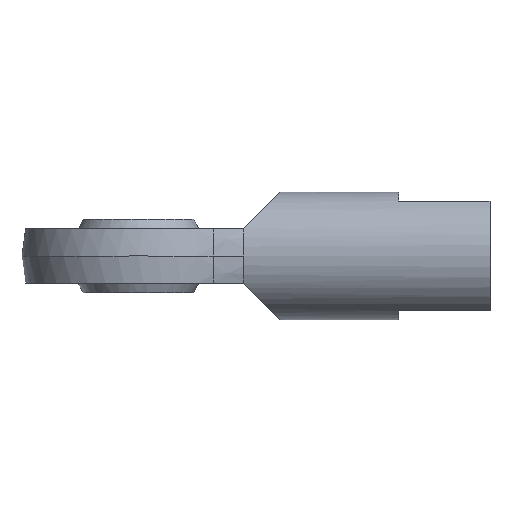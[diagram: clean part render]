
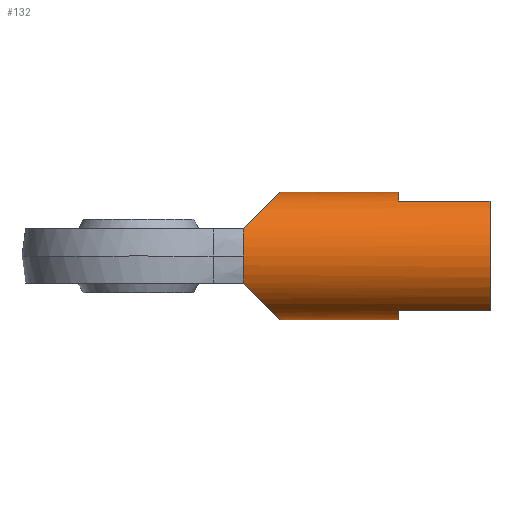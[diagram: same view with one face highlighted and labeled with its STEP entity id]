
A CAD part, front view. The second image highlights one B-rep face of the part: STEP entity #132.
In plain terms, the highlighted cylindrical face has radius 14 mm (diameter 28 mm), a partial arc.
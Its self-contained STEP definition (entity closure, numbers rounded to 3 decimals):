
#35 = ORIENTED_EDGE ( 'NONE', *, *, #36, .F. ) ;
#36 = EDGE_CURVE ( 'NONE', #42, #38, #335, .T. ) ;
#38 = VERTEX_POINT ( 'NONE', #377 ) ;
#42 = VERTEX_POINT ( 'NONE', #375 ) ;
#44 = ORIENTED_EDGE ( 'NONE', *, *, #46, .F. ) ;
#45 = VERTEX_POINT ( 'NONE', #373 ) ;
#46 = EDGE_CURVE ( 'NONE', #38, #45, #372, .T. ) ;
#47 = EDGE_CURVE ( 'NONE', #45, #323, #368, .T. ) ;
#48 = ORIENTED_EDGE ( 'NONE', *, *, #47, .F. ) ;
#49 = ORIENTED_EDGE ( 'NONE', *, *, #296, .T. ) ;
#50 = ORIENTED_EDGE ( 'NONE', *, *, #83, .T. ) ;
#51 = EDGE_CURVE ( 'NONE', #297, #79, #363, .T. ) ;
#52 = ORIENTED_EDGE ( 'NONE', *, *, #51, .F. ) ;
#77 = VERTEX_POINT ( 'NONE', #468 ) ;
#79 = VERTEX_POINT ( 'NONE', #467 ) ;
#83 = EDGE_CURVE ( 'NONE', #77, #79, #462, .T. ) ;
#119 = EDGE_CURVE ( 'NONE', #208, #326, #559, .T. ) ;
#129 = ORIENTED_EDGE ( 'NONE', *, *, #119, .F. ) ;
#130 = ORIENTED_EDGE ( 'NONE', *, *, #334, .F. ) ;
#131 = EDGE_LOOP ( 'NONE', ( #130, #129, #207, #50, #52, #49, #48, #44, #35, #328, #140 ) ) ;
#132 = ADVANCED_FACE ( 'NONE', ( #588 ), #587, .T. ) ;
#139 = EDGE_CURVE ( 'NONE', #333, #142, #569, .T. ) ;
#140 = ORIENTED_EDGE ( 'NONE', *, *, #139, .F. ) ;
#142 = VERTEX_POINT ( 'NONE', #565 ) ;
#144 = EDGE_CURVE ( 'NONE', #142, #42, #564, .T. ) ;
#205 = EDGE_CURVE ( 'NONE', #208, #77, #706, .T. ) ;
#207 = ORIENTED_EDGE ( 'NONE', *, *, #205, .T. ) ;
#208 = VERTEX_POINT ( 'NONE', #696 ) ;
#296 = EDGE_CURVE ( 'NONE', #297, #323, #885, .T. ) ;
#297 = VERTEX_POINT ( 'NONE', #876 ) ;
#323 = VERTEX_POINT ( 'NONE', #937 ) ;
#326 = VERTEX_POINT ( 'NONE', #935 ) ;
#328 = ORIENTED_EDGE ( 'NONE', *, *, #144, .F. ) ;
#333 = VERTEX_POINT ( 'NONE', #928 ) ;
#334 = EDGE_CURVE ( 'NONE', #326, #333, #927, .T. ) ;
#335 = CIRCLE ( 'NONE', #381, 14. ) ;
#363 =( BOUNDED_CURVE ( )  B_SPLINE_CURVE ( 3, ( #414, #413, #412, #411 ),
 .UNSPECIFIED., .F., .T. ) 
 B_SPLINE_CURVE_WITH_KNOTS ( ( 4, 4 ),
 ( 0., 1.128 ),
 .UNSPECIFIED. ) 
 CURVE ( )  GEOMETRIC_REPRESENTATION_ITEM ( )  RATIONAL_B_SPLINE_CURVE ( ( 1., 0.897, 0.897, 1. ) ) 
 REPRESENTATION_ITEM ( '' )  );
#364 = DIRECTION ( 'NONE',  ( 0., 0., 1. ) ) ;
#365 = DIRECTION ( 'NONE',  ( 1., 0., 0. ) ) ;
#366 = CARTESIAN_POINT ( 'NONE',  ( 57., 0., 0. ) ) ;
#367 = AXIS2_PLACEMENT_3D ( 'NONE', #366, #365, #364 ) ;
#368 = CIRCLE ( 'NONE', #367, 14. ) ;
#369 = DIRECTION ( 'NONE',  ( -1., 0., 0. ) ) ;
#370 = VECTOR ( 'NONE', #369, 1000. ) ;
#371 = CARTESIAN_POINT ( 'NONE',  ( 23., -7.211, -12. ) ) ;
#372 = LINE ( 'NONE', #371, #370 ) ;
#373 = CARTESIAN_POINT ( 'NONE',  ( 57., -7.211, -12. ) ) ;
#375 = CARTESIAN_POINT ( 'NONE',  ( 77., -7.211, 12. ) ) ;
#377 = CARTESIAN_POINT ( 'NONE',  ( 77., -7.211, -12. ) ) ;
#378 = DIRECTION ( 'NONE',  ( 0., 0., -1. ) ) ;
#379 = DIRECTION ( 'NONE',  ( 1., 0., 0. ) ) ;
#380 = CARTESIAN_POINT ( 'NONE',  ( 77., 0., 0. ) ) ;
#381 = AXIS2_PLACEMENT_3D ( 'NONE', #380, #379, #378 ) ;
#411 = CARTESIAN_POINT ( 'NONE',  ( 23., -12.649, -6. ) ) ;
#412 = CARTESIAN_POINT ( 'NONE',  ( 28.026, -10.265, -11.026 ) ) ;
#413 = CARTESIAN_POINT ( 'NONE',  ( 31., -5.563, -14. ) ) ;
#414 = CARTESIAN_POINT ( 'NONE',  ( 31., 0., -14. ) ) ;
#458 = DIRECTION ( 'NONE',  ( 0., 1., 0. ) ) ;
#459 = DIRECTION ( 'NONE',  ( 1., 0., 0. ) ) ;
#460 = CARTESIAN_POINT ( 'NONE',  ( 23., 0., 0. ) ) ;
#461 = AXIS2_PLACEMENT_3D ( 'NONE', #460, #459, #458 ) ;
#462 = CIRCLE ( 'NONE', #461, 14. ) ;
#467 = CARTESIAN_POINT ( 'NONE',  ( 23., -12.649, -6. ) ) ;
#468 = CARTESIAN_POINT ( 'NONE',  ( 23., -14., 0. ) ) ;
#555 = CARTESIAN_POINT ( 'NONE',  ( 31., 0., 14. ) ) ;
#556 = CARTESIAN_POINT ( 'NONE',  ( 31., -5.563, 14. ) ) ;
#557 = CARTESIAN_POINT ( 'NONE',  ( 28.026, -10.265, 11.026 ) ) ;
#558 = CARTESIAN_POINT ( 'NONE',  ( 23., -12.649, 6. ) ) ;
#559 =( BOUNDED_CURVE ( )  B_SPLINE_CURVE ( 3, ( #558, #557, #556, #555 ),
 .UNSPECIFIED., .F., .T. ) 
 B_SPLINE_CURVE_WITH_KNOTS ( ( 4, 4 ),
 ( 5.155, 6.283 ),
 .UNSPECIFIED. ) 
 CURVE ( )  GEOMETRIC_REPRESENTATION_ITEM ( )  RATIONAL_B_SPLINE_CURVE ( ( 1., 0.897, 0.897, 1. ) ) 
 REPRESENTATION_ITEM ( '' )  );
#561 = DIRECTION ( 'NONE',  ( 1., 0., 0. ) ) ;
#562 = VECTOR ( 'NONE', #561, 1000. ) ;
#563 = CARTESIAN_POINT ( 'NONE',  ( 23., -7.211, 12. ) ) ;
#564 = LINE ( 'NONE', #563, #562 ) ;
#565 = CARTESIAN_POINT ( 'NONE',  ( 57., -7.211, 12. ) ) ;
#566 = DIRECTION ( 'NONE',  ( 0., 0., 1. ) ) ;
#567 = DIRECTION ( 'NONE',  ( 1., 0., 0. ) ) ;
#568 = AXIS2_PLACEMENT_3D ( 'NONE', #574, #567, #566 ) ;
#569 = CIRCLE ( 'NONE', #568, 14. ) ;
#574 = CARTESIAN_POINT ( 'NONE',  ( 57., 0., 0. ) ) ;
#582 = DIRECTION ( 'NONE',  ( 0., 0., -1. ) ) ;
#583 = DIRECTION ( 'NONE',  ( 1., 0., 0. ) ) ;
#584 = AXIS2_PLACEMENT_3D ( 'NONE', #586, #583, #582 ) ;
#586 = CARTESIAN_POINT ( 'NONE',  ( 23., 0., 0. ) ) ;
#587 = CYLINDRICAL_SURFACE ( 'NONE', #584, 14. ) ;
#588 = FACE_OUTER_BOUND ( 'NONE', #131, .T. ) ;
#696 = CARTESIAN_POINT ( 'NONE',  ( 23., -12.649, 6. ) ) ;
#698 = DIRECTION ( 'NONE',  ( 0., 1., 0. ) ) ;
#699 = DIRECTION ( 'NONE',  ( 1., 0., 0. ) ) ;
#700 = CARTESIAN_POINT ( 'NONE',  ( 23., 0., 0. ) ) ;
#701 = AXIS2_PLACEMENT_3D ( 'NONE', #700, #699, #698 ) ;
#706 = CIRCLE ( 'NONE', #701, 14. ) ;
#876 = CARTESIAN_POINT ( 'NONE',  ( 31., 0., -14. ) ) ;
#877 = DIRECTION ( 'NONE',  ( 1., 0., 0. ) ) ;
#878 = VECTOR ( 'NONE', #877, 1000. ) ;
#879 = CARTESIAN_POINT ( 'NONE',  ( 23., 0., -14. ) ) ;
#885 = LINE ( 'NONE', #879, #878 ) ;
#926 = CARTESIAN_POINT ( 'NONE',  ( 23., 0., 14. ) ) ;
#927 = LINE ( 'NONE', #926, #982 ) ;
#928 = CARTESIAN_POINT ( 'NONE',  ( 57., 0., 14. ) ) ;
#935 = CARTESIAN_POINT ( 'NONE',  ( 31., 0., 14. ) ) ;
#937 = CARTESIAN_POINT ( 'NONE',  ( 57., 0., -14. ) ) ;
#981 = DIRECTION ( 'NONE',  ( 1., 0., 0. ) ) ;
#982 = VECTOR ( 'NONE', #981, 1000. ) ;
